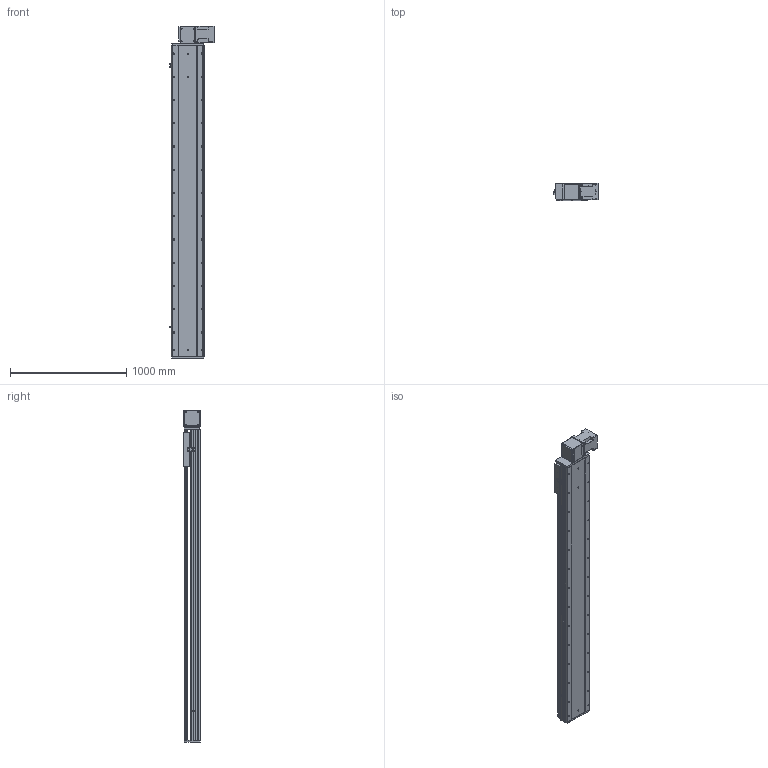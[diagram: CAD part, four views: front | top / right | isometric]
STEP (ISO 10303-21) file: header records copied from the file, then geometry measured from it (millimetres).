
FILE_DESCRIPTION (( 'STEP AP214' ), '1' );
FILE_NAME ('RTB28S-XX-2250-BL-M100-XX-C4.STEP', '2025-12-22T02:30:32', ( '' ), ( '' ), 'SwSTEP 2.0', 'SolidWorks 2018', '' );
FILE_SCHEMA (( 'AUTOMOTIVE_DESIGN' ));
Length unit declared in the file: millimetre
Products named in the file (4): RTB28S-XX-2250-BL-M100-XX-C4; RTB28S-GY-008^RTB28S-XX-XX-BL-M100-XX-C4; RTB28S-GY-011^RTB28S-XX-XX-BL-M100-XX-C4; RTB28S-GY-004^RTB28S-XX-XX-BL-M100-XX-C4
Assembly tree (3 placements, depth 2):
  RTB28S-XX-2250-BL-M100-XX-C4
    RTB28S-GY-011^RTB28S-XX-XX-BL-M100-XX-C4
    RTB28S-GY-004^RTB28S-XX-XX-BL-M100-XX-C4
    RTB28S-GY-008^RTB28S-XX-XX-BL-M100-XX-C4
Bounding box: 380.7 x 145 x 2857 mm (x, y, z)
Volume: 49300988.1 mm3; surface area: 4637388.4 mm2
Topology: 3 solids, 4 shells, 848 faces, 2268 edges, 1448 vertices
Faces by surface type: cylinder 407, plane 357, cone 80, torus 4
Entity records: 32429 total; most frequent: CARTESIAN_POINT 5902, DIRECTION 4818, ORIENTED_EDGE 4472, EDGE_CURVE 2236, AXIS2_PLACEMENT_3D 1764, VERTEX_POINT 1448, LINE 1290, VECTOR 1290
